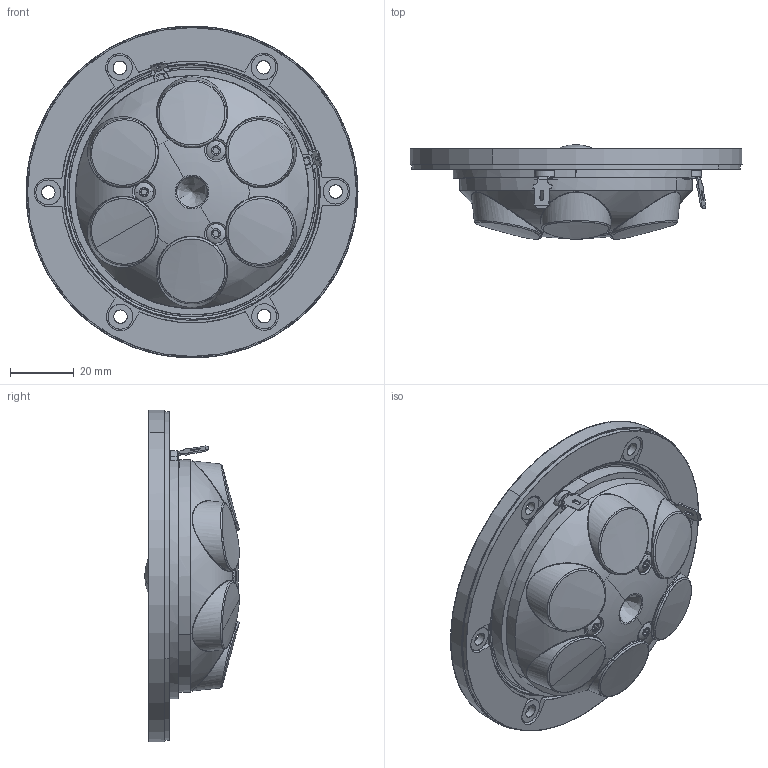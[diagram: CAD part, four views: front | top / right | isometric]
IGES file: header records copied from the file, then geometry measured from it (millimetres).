
Start section: SolidWorks IGES file using analytic representation for surfaces
Global section: file name: W:\TT\WEB 3D ENHEDER VER2\D3004_660000\D3004-660000.IGS; native system: SolidWorks 2019; preprocessor: SolidWorks 2019; author: mhn; date: 201029.080342; units: millimetre
Bounding box: 103.96 x 29.6 x 103.96 mm (x, y, z)
Surface area: 29990.9 mm2 (no closed solid volume)
Topology: 0 solids, 0 shells, 578 faces, 8887 edges, 8878 vertices
Faces by surface type: bspline 309, revolution 269
